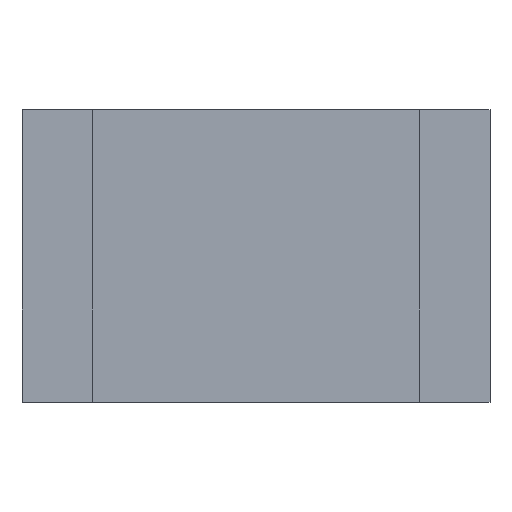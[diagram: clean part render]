
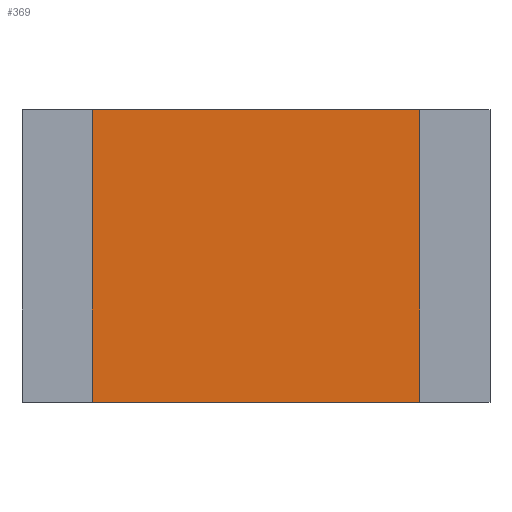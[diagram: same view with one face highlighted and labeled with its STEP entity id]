
A CAD part, top view. The second image highlights one B-rep face of the part: STEP entity #369.
In plain terms, the highlighted planar face has unit normal (0, 0, 1).
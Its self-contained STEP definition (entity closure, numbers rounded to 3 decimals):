
#369=ADVANCED_FACE('',(#766),#768,.F.);
#766=FACE_BOUND('',#767,.T.);
#767=EDGE_LOOP('',(#1050,#1051,#1052,#1053));
#768=PLANE('',#769);
#769=AXIS2_PLACEMENT_3D('',#770,#771,#772);
#770=CARTESIAN_POINT('',(0.,0.,0.45));
#771=DIRECTION('',(0.,0.,-1.));
#772=DIRECTION('',(1.,0.,0.));
#1050=ORIENTED_EDGE('',*,*,#1226,.F.);
#1051=ORIENTED_EDGE('',*,*,#1223,.F.);
#1052=ORIENTED_EDGE('',*,*,#1220,.F.);
#1053=ORIENTED_EDGE('',*,*,#1216,.F.);
#1216=EDGE_CURVE('',#1379,#1380,#1381,.T.);
#1220=EDGE_CURVE('',#1380,#1387,#1388,.T.);
#1223=EDGE_CURVE('',#1387,#1392,#1393,.T.);
#1226=EDGE_CURVE('',#1392,#1379,#1397,.T.);
#1379=VERTEX_POINT('',#1704);
#1380=VERTEX_POINT('',#1705);
#1381=LINE('',#1706,#1707);
#1387=VERTEX_POINT('',#1720);
#1388=LINE('',#1721,#1722);
#1392=VERTEX_POINT('',#1731);
#1393=LINE('',#1732,#1733);
#1397=LINE('',#1742,#1743);
#1704=CARTESIAN_POINT('',(0.7,-0.625,0.45));
#1705=CARTESIAN_POINT('',(-0.7,-0.625,0.45));
#1706=CARTESIAN_POINT('',(0.7,-0.625,0.45));
#1707=VECTOR('',#1708,1.);
#1708=DIRECTION('',(-1.,0.,0.));
#1720=CARTESIAN_POINT('',(-0.7,0.625,0.45));
#1721=CARTESIAN_POINT('',(-0.7,-0.625,0.45));
#1722=VECTOR('',#1723,1.);
#1723=DIRECTION('',(0.,1.,0.));
#1731=CARTESIAN_POINT('',(0.7,0.625,0.45));
#1732=CARTESIAN_POINT('',(-0.7,0.625,0.45));
#1733=VECTOR('',#1734,1.);
#1734=DIRECTION('',(1.,0.,0.));
#1742=CARTESIAN_POINT('',(0.7,0.625,0.45));
#1743=VECTOR('',#1744,1.);
#1744=DIRECTION('',(0.,-1.,0.));
